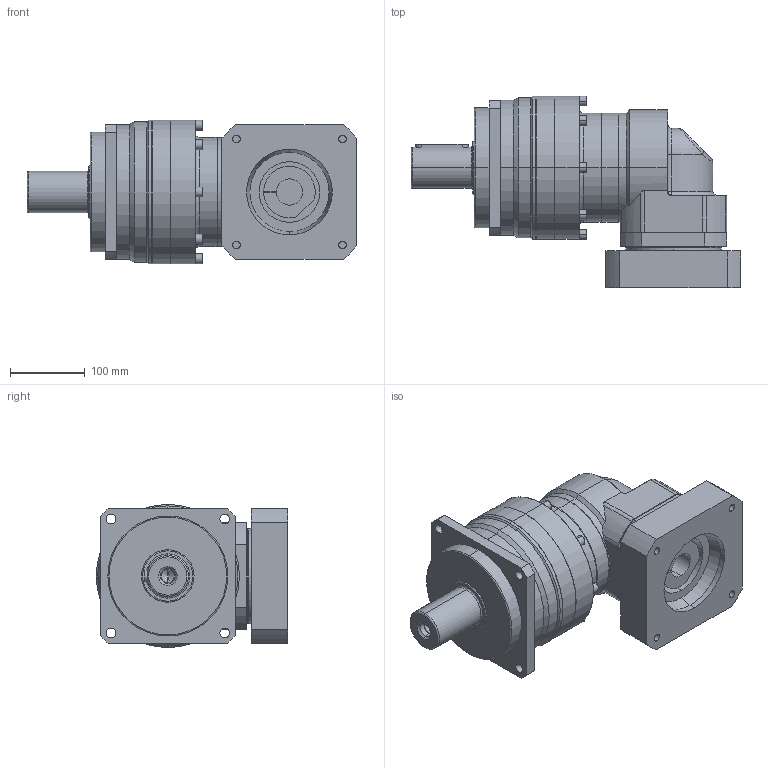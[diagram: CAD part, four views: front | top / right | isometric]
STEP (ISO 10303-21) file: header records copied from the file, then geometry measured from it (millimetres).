
FILE_DESCRIPTION (( 'STEP AP214' ), '1' );
FILE_NAME ('EVB180-L2-S2-P1 35-114.3-200-M12.STEP', '2025-01-07T01:42:15', ( '微软用户' ), ( '微软中国' ), 'SwSTEP 2.0', 'SolidWorks 2021', '' );
FILE_SCHEMA (( 'AUTOMOTIVE_DESIGN' ));
Length unit declared in the file: millimetre
Products named in the file (1): EVB180-L2-S2-P1 35-114.3-200-M12
Bounding box: 440 x 255.5 x 191 mm (x, y, z)
Volume: 8860108 mm3; surface area: 382242.7 mm2
Topology: 1 solids, 1 shells, 354 faces, 813 edges, 485 vertices
Faces by surface type: plane 144, cylinder 107, cone 64, torus 31, bspline 6, sphere 2
Entity records: 10847 total; most frequent: CARTESIAN_POINT 2667, DIRECTION 1827, ORIENTED_EDGE 1618, EDGE_CURVE 809, AXIS2_PLACEMENT_3D 711, VERTEX_POINT 485, VECTOR 405, LINE 405
